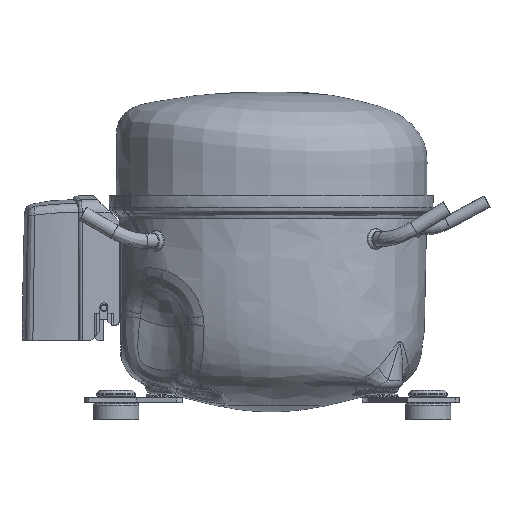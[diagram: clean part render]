
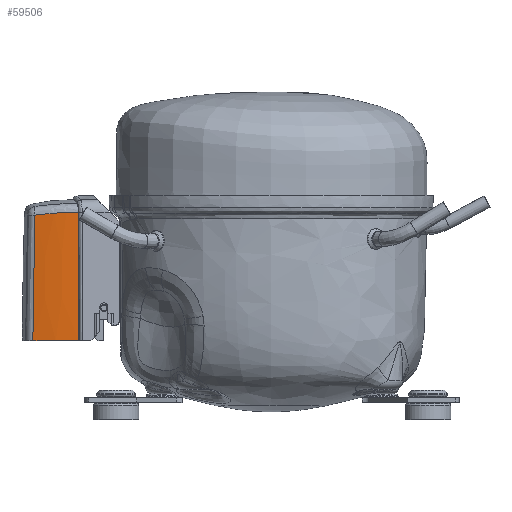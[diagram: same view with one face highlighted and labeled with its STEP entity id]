
A CAD part, top view. The second image highlights one B-rep face of the part: STEP entity #59506.
In plain terms, the highlighted free-form (B-spline) face has degree [3, 3] with [7, 4] control points.
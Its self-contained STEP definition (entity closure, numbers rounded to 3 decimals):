
#54454=CARTESIAN_POINT('',(21.859,0.,29.04));
#54455=CARTESIAN_POINT('',(21.954,-23.305,
28.633));
#54456=CARTESIAN_POINT('',(22.048,-46.609,
28.226));
#54457=CARTESIAN_POINT('',(22.139,-69.914,
27.819));
#54659=CARTESIAN_POINT('',(46.977,0.,
26.494));
#54660=CARTESIAN_POINT('',(44.222,0.,
27.056));
#54661=CARTESIAN_POINT('',(38.687,0.,
27.993));
#54662=CARTESIAN_POINT('',(30.283,0.,
28.844));
#54663=CARTESIAN_POINT('',(24.672,0.,29.037));
#54664=CARTESIAN_POINT('',(21.859,0.,29.04));
#56356=CARTESIAN_POINT('',(45.911,-68.42,
25.49));
#56357=CARTESIAN_POINT('',(43.322,-68.783,
25.993));
#56358=CARTESIAN_POINT('',(38.093,-69.384,
26.841));
#56359=CARTESIAN_POINT('',(30.112,-69.889,
27.625));
#56360=CARTESIAN_POINT('',(24.793,-69.951,
27.81));
#56361=CARTESIAN_POINT('',(22.139,-69.914,
27.819));
#56368=CARTESIAN_POINT('',(45.911,-68.42,
25.49));
#56369=CARTESIAN_POINT('',(46.028,-60.875,
25.601));
#56370=CARTESIAN_POINT('',(46.265,-45.747,
25.823));
#56371=CARTESIAN_POINT('',(46.62,-22.941,
26.158));
#56372=CARTESIAN_POINT('',(46.858,-7.66,
26.382));
#56373=CARTESIAN_POINT('',(46.977,0.,
26.494));
#56624=VERTEX_POINT('',#56356);
#56625=VERTEX_POINT('',#56361);
#56626=VERTEX_POINT('',#56373);
#56636=VERTEX_POINT('',#54454);
#59470=CARTESIAN_POINT('',(46.742,-68.3,
25.326));
#59471=CARTESIAN_POINT('',(46.823,-44.984,
25.725));
#59472=CARTESIAN_POINT('',(46.903,-21.669,
26.124));
#59473=CARTESIAN_POINT('',(46.983,1.647,26.523));
#59474=CARTESIAN_POINT('',(44.576,-68.618,
25.761));
#59475=CARTESIAN_POINT('',(44.649,-45.303,
26.162));
#59476=CARTESIAN_POINT('',(44.723,-21.987,
26.562));
#59477=CARTESIAN_POINT('',(44.796,1.328,26.962));
#59478=CARTESIAN_POINT('',(39.404,-69.266,
26.661));
#59479=CARTESIAN_POINT('',(39.461,-45.951,
27.065));
#59480=CARTESIAN_POINT('',(39.518,-22.635,
27.468));
#59481=CARTESIAN_POINT('',(39.574,0.68,
27.871));
#59482=CARTESIAN_POINT('',(31.207,-69.875,
27.571));
#59483=CARTESIAN_POINT('',(31.238,-46.559,
27.977));
#59484=CARTESIAN_POINT('',(31.268,-23.244,
28.383));
#59485=CARTESIAN_POINT('',(31.299,0.072,
28.789));
#59486=CARTESIAN_POINT('',(25.07,-69.969,
27.812));
#59487=CARTESIAN_POINT('',(25.081,-46.654,
28.219));
#59488=CARTESIAN_POINT('',(25.091,-23.338,
28.626));
#59489=CARTESIAN_POINT('',(25.102,-0.023,
29.033));
#59490=CARTESIAN_POINT('',(21.957,-69.923,
27.819));
#59491=CARTESIAN_POINT('',(21.957,-46.607,
28.226));
#59492=CARTESIAN_POINT('',(21.958,-23.292,
28.633));
#59493=CARTESIAN_POINT('',(21.959,0.023,
29.04));
#59494=CARTESIAN_POINT('',(21.857,-69.921,
27.82));
#59495=CARTESIAN_POINT('',(21.858,-46.606,
28.227));
#59496=CARTESIAN_POINT('',(21.858,-23.29,
28.634));
#59497=CARTESIAN_POINT('',(21.859,0.025,
29.041));
#59498=B_SPLINE_SURFACE_WITH_KNOTS('',3,3,((#59470,#59471,#59472,#59473),
(#59474,#59475,#59476,#59477),(#59478,#59479,#59480,#59481),(#59482,#59483,
#59484,#59485),(#59486,#59487,#59488,#59489),(#59490,#59491,#59492,#59493),(
#59494,#59495,#59496,#59497)),.UNSPECIFIED.,.F.,.F.,.F.,(4,1,1,1,4),(4,4),(
0.116,0.349,0.669,0.989,1.),(
0.054,1.),.UNSPECIFIED.);
#59499=ORIENTED_EDGE('',*,*,#59463,.T.);
#59500=ORIENTED_EDGE('',*,*,#56769,.F.);
#59501=ORIENTED_EDGE('',*,*,#57048,.F.);
#59503=ORIENTED_EDGE('',*,*,#59502,.F.);
#59504=EDGE_LOOP('',(#59499,#59500,#59501,#59503));
#59505=FACE_OUTER_BOUND('',#59504,.F.);
#59506=ADVANCED_FACE('',(#59505),#59498,.F.);
#54458=B_SPLINE_CURVE_WITH_KNOTS('',3,(#54454,#54455,#54456,#54457),
.UNSPECIFIED.,.F.,.F.,(4,4),(0.,1.),.UNSPECIFIED.);
#54665=B_SPLINE_CURVE_WITH_KNOTS('',3,(#54659,#54660,#54661,#54662,#54663,
#54664),.UNSPECIFIED.,.F.,.F.,(4,1,1,4),(0.,0.333,
0.667,1.),.UNSPECIFIED.);
#56362=B_SPLINE_CURVE_WITH_KNOTS('',3,(#56356,#56357,#56358,#56359,#56360,
#56361),.UNSPECIFIED.,.F.,.F.,(4,1,1,4),(0.,0.333,
0.667,1.),.UNSPECIFIED.);
#56374=B_SPLINE_CURVE_WITH_KNOTS('',3,(#56368,#56369,#56370,#56371,#56372,
#56373),.UNSPECIFIED.,.F.,.F.,(4,1,1,4),(0.,0.333,
0.667,1.),.UNSPECIFIED.);
#56769=EDGE_CURVE('',#56636,#56625,#54458,.T.);
#57048=EDGE_CURVE('',#56626,#56636,#54665,.T.);
#59463=EDGE_CURVE('',#56624,#56625,#56362,.T.);
#59502=EDGE_CURVE('',#56624,#56626,#56374,.T.);
